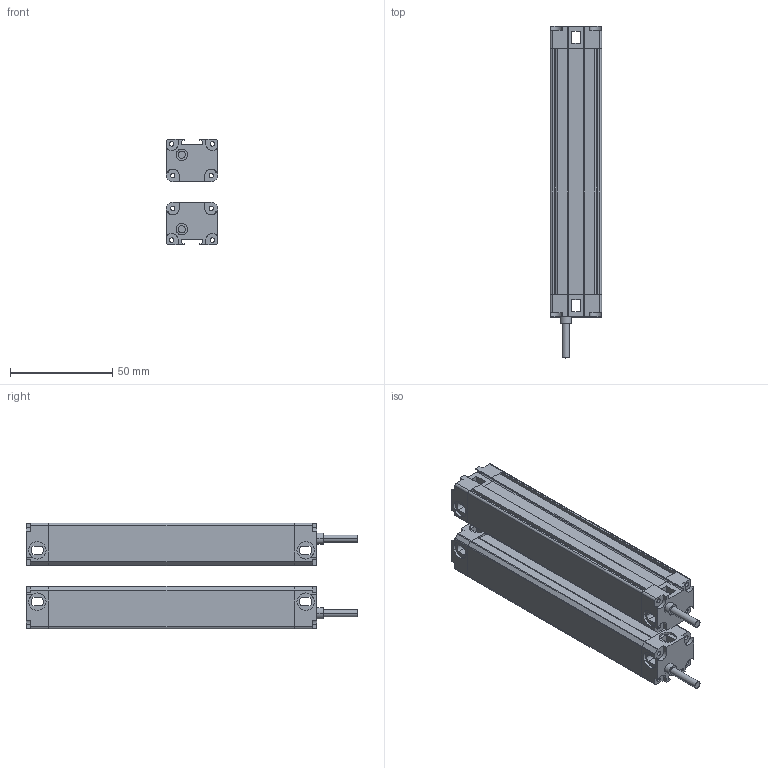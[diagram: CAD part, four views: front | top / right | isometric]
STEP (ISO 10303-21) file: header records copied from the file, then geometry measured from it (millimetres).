
FILE_DESCRIPTION (( 'STEP AP214' ), '1' );
FILE_NAME ('MTC1210.STEP', '2022-12-02T08:04:45', ( '' ), ( '' ), 'SwSTEP 2.0', 'SolidWorks 2018', '' );
FILE_SCHEMA (( 'AUTOMOTIVE_DESIGN' ));
Length unit declared in the file: millimetre
Products named in the file (5): P02^MTC; MTC waike^MTC; 噩砃P02^MTC; MTC1210; P01^MTC
Assembly tree (6 placements, depth 2):
  MTC1210
    MTC waike^MTC  x2
    P01^MTC  x2
    P02^MTC
    噩砃P02^MTC
Bounding box: 25 x 162 x 51.4 mm (x, y, z)
Volume: 54719.8 mm3; surface area: 67119.8 mm2
Topology: 8 solids, 8 shells, 480 faces, 1396 edges, 924 vertices
Faces by surface type: plane 272, cylinder 208
Entity records: 10886 total; most frequent: DIRECTION 1881, CARTESIAN_POINT 1878, ORIENTED_EDGE 1846, EDGE_CURVE 923, AXIS2_PLACEMENT_3D 637, VERTEX_POINT 610, LINE 607, VECTOR 607
